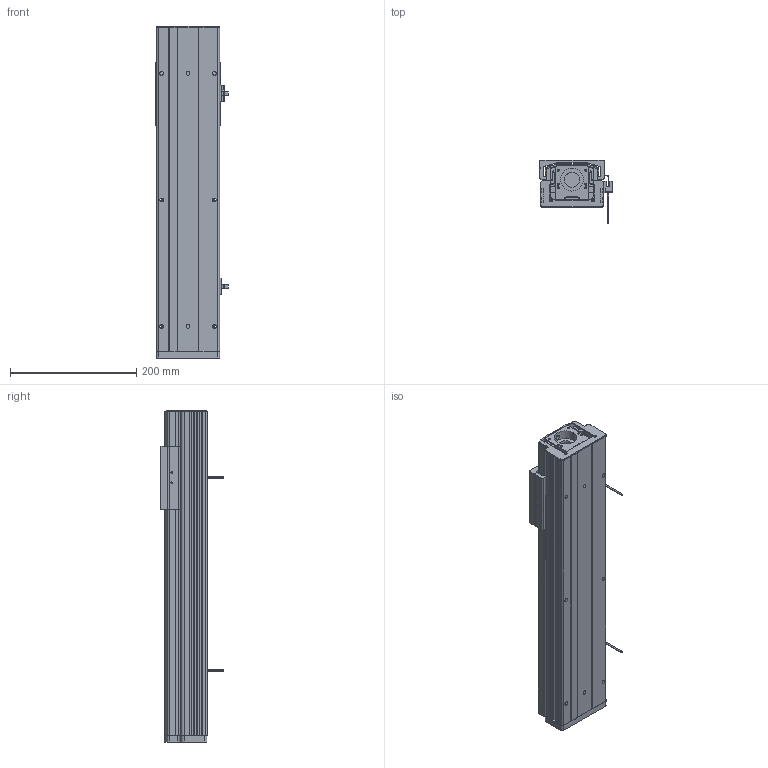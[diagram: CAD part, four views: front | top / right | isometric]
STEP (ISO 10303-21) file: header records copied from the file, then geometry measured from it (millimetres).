
FILE_DESCRIPTION (( 'STEP AP203' ), '1' );
FILE_NAME ('CTHM10-S300-O-BC.STEP', '2019-12-18T01:14:46', ( '微软用户' ), ( '微软中国' ), 'SwSTEP 2.0', 'SolidWorks 2017', '' );
FILE_SCHEMA (( 'CONFIG_CONTROL_DESIGN' ));
Length unit declared in the file: millimetre
Products named in the file (11): CTHM10菁釱(200); EE-SX672-BR; CTHM10痄雄釱(党蜊); CTHM10-S300-O-BC; CTHM10盓傅耜; CTHM10固定侧自制轴承座; CTHM10裔啣(100); CTHM10傷裔(祥結裔啣); CTHM10綴傷裔; 覜茼え; 遣喳蝶15x12x8
Assembly tree (14 placements, depth 2):
  CTHM10-S300-O-BC
    CTHM10菁釱(200)
    CTHM10痄雄釱(党蜊)
    CTHM10盓傅耜
    CTHM10固定侧自制轴承座
    CTHM10裔啣(100)
    CTHM10傷裔(祥結裔啣)
    CTHM10綴傷裔
    覜茼え
    遣喳蝶15x12x8  x4
    EE-SX672-BR  x2
Bounding box: 114.7 x 100.2 x 525 mm (x, y, z)
Volume: 1537692.3 mm3; surface area: 520634.4 mm2
Topology: 14 solids, 14 shells, 930 faces, 2632 edges, 1716 vertices
Faces by surface type: cylinder 493, plane 393, cone 44
Entity records: 31407 total; most frequent: CARTESIAN_POINT 7575, DIRECTION 4766, ORIENTED_EDGE 4736, EDGE_CURVE 2368, AXIS2_PLACEMENT_3D 1737, VERTEX_POINT 1564, VECTOR 1292, LINE 1292
